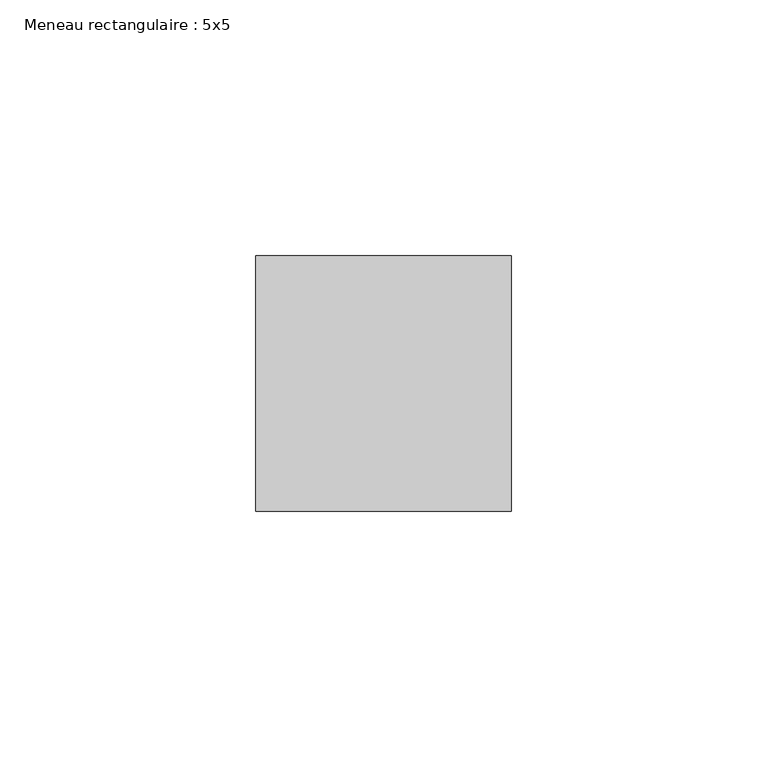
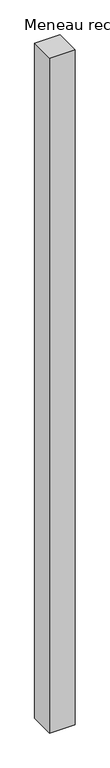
"""IFC4 building model written with IfcOpenShell, lengths in millimetres: member geometry, Meneau rectangulaire : 5x5."""

import ifcopenshell
import ifcopenshell.guid

model = None  # the IFC model being written
_history = None  # IfcOwnerHistory: only IFC2X3 demands one
_inside = {}  # id of a spatial element -> (the spatial element, [elements in it])
_under = {}  # id of a project, library or spatial element -> (it, [spatial elements below it])
_declared = {}  # id of a project -> (the project, [libraries it declares])
_typed = {}  # id of a type object -> (the type object, [elements of that type])
_made_of = {}  # id of a material, layer set ... -> (it, [elements and type objects made of it])


def new_model(schema):
    """Start an empty IFC model of exactly this schema.

    Asked for "IFC4X3", IfcOpenShell would pick the latest addendum, in which some entities
    have other attributes; the version numbers below select the first issue.
    IFC2X3 requires an IfcOwnerHistory on every rooted entity: one is made here for all.
    """
    global model, _history
    if schema == "IFC4X3":
        model = ifcopenshell.file(schema_version=(4, 3, 0, 0))
    else:
        model = ifcopenshell.file(schema=schema)
    _inside.clear()
    _under.clear()
    _declared.clear()
    _typed.clear()
    _made_of.clear()
    _history = None
    if model.schema == "IFC2X3":
        org = make("IfcOrganization", Name="unknown")
        user = make(
            "IfcPersonAndOrganization",
            ThePerson=make("IfcPerson", FamilyName="unknown"),
            TheOrganization=org,
        )
        app = make(
            "IfcApplication",
            ApplicationDeveloper=org,
            Version="unknown",
            ApplicationFullName="unknown",
            ApplicationIdentifier="unknown",
        )
        _history = make(
            "IfcOwnerHistory",
            OwningUser=user,
            OwningApplication=app,
            ChangeAction="ADDED",
            CreationDate=0,
        )
    return model


def make(cls, **values):
    """One entity of the class cls with the attributes given. An attribute that is None is left unset."""
    return model.create_entity(
        cls, **{name: value for name, value in values.items() if value is not None}
    )


def rooted(cls, **values):
    """An entity with a GlobalId (a new one), such as an element, a storey or a relation."""
    return make(cls, GlobalId=ifcopenshell.guid.new(), OwnerHistory=_history, **values)


def si_unit(unit_type, name, prefix=None):
    """IfcSIUnit, for example si_unit("LENGTHUNIT", "METRE", prefix="MILLI")."""
    return make("IfcSIUnit", UnitType=unit_type, Prefix=prefix, Name=name)


def assignment(units):
    """IfcUnitAssignment: the units of a project."""
    return None if units is None else make("IfcUnitAssignment", Units=units)


def point(xyz):
    """IfcCartesianPoint."""
    return None if xyz is None else make("IfcCartesianPoint", Coordinates=xyz)


def direction(xyz):
    """IfcDirection."""
    return None if xyz is None else make("IfcDirection", DirectionRatios=xyz)


def frame(location, z_axis=None, x_axis=None):
    """IfcAxis2Placement3D, a coordinate frame: its origin and axes. An axis left out is left unset."""
    return make(
        "IfcAxis2Placement3D",
        Location=point(location),
        Axis=direction(z_axis),
        RefDirection=direction(x_axis),
    )


def origin():
    """The frame at (0, 0, 0) with its axes left unset."""
    return frame((0.0, 0.0, 0.0))


def place(relative_to, where):
    """IfcLocalPlacement: puts the frame where relative to a parent placement (None: the world)."""
    return make(
        "IfcLocalPlacement", PlacementRelTo=relative_to, RelativePlacement=where
    )


def context(
    kind, dimensions, precision=None, world=None, true_north=None, identifier=None
):
    """IfcGeometricRepresentationContext, for example the 3D "Model" context."""
    return make(
        "IfcGeometricRepresentationContext",
        ContextIdentifier=identifier,
        ContextType=kind,
        CoordinateSpaceDimension=dimensions,
        Precision=precision,
        WorldCoordinateSystem=world,
        TrueNorth=true_north,
    )


def project(units=None, contexts=None):
    """IfcProject with its units and contexts."""
    return rooted(
        "IfcProject",
        Name="project",
        RepresentationContexts=contexts,
        UnitsInContext=assignment(units),
    )


def spatial(cls, under=None, at=None, **own):
    """A site, building, storey or space (cls), placed at a placement, below another one or the project."""
    s = rooted(cls, ObjectPlacement=at, **own)
    if under is not None:
        _under.setdefault(under.id(), (under, []))[1].append(s)
    return s


def polyline(points):
    """IfcPolyline through the points."""
    return make("IfcPolyline", Points=[point(p) for p in points])


def outline(outer, holes=None, kind="AREA"):
    """IfcArbitraryClosedProfileDef: a profile drawn as a closed curve; with holes, ...WithVoids."""
    if holes is None:
        return make("IfcArbitraryClosedProfileDef", ProfileType=kind, OuterCurve=outer)
    return make(
        "IfcArbitraryProfileDefWithVoids",
        ProfileType=kind,
        OuterCurve=outer,
        InnerCurves=holes,
    )


def extrude(swept, where, along, depth):
    """IfcExtrudedAreaSolid: the profile swept, set in the frame where, extruded along a direction by depth."""
    return make(
        "IfcExtrudedAreaSolid",
        SweptArea=swept,
        Position=where,
        ExtrudedDirection=direction(along),
        Depth=depth,
    )


def shape(context_of_items, identifier, shape_type, items):
    """IfcShapeRepresentation: the items that make up one representation, for example the "Body"."""
    return make(
        "IfcShapeRepresentation",
        ContextOfItems=context_of_items,
        RepresentationIdentifier=identifier,
        RepresentationType=shape_type,
        Items=items,
    )


def source(mapping_origin, context_of_items, identifier, shape_type, items):
    """IfcRepresentationMap: a shape defined once, which mapped items show again and again."""
    return make(
        "IfcRepresentationMap",
        MappingOrigin=mapping_origin,
        MappedRepresentation=shape(context_of_items, identifier, shape_type, items),
    )


def transform(
    local_origin,
    x_axis=None,
    y_axis=None,
    z_axis=None,
    scale=None,
    scale2=None,
    scale3=None,
    uniform=True,
):
    """IfcCartesianTransformationOperator3D, or its non-uniform kind. x_axis, y_axis, z_axis: its Axis1, 2, 3."""
    if uniform:
        return make(
            "IfcCartesianTransformationOperator3D",
            Axis1=direction(x_axis),
            Axis2=direction(y_axis),
            LocalOrigin=point(local_origin),
            Scale=scale,
            Axis3=direction(z_axis),
        )
    return make(
        "IfcCartesianTransformationOperator3DnonUniform",
        Axis1=direction(x_axis),
        Axis2=direction(y_axis),
        LocalOrigin=point(local_origin),
        Scale=scale,
        Axis3=direction(z_axis),
        Scale2=scale2,
        Scale3=scale3,
    )


def mapped(mapping_source, mapping_target):
    """IfcMappedItem: shows the shape of a source again, moved by a transform."""
    return make(
        "IfcMappedItem", MappingSource=mapping_source, MappingTarget=mapping_target
    )


def made_of(thing, what):
    """Note that an element or type object is made of a material, layer set ...; save() writes the relation."""
    if what is not None:
        _made_of.setdefault(what.id(), (what, []))[1].append(thing)
    return thing


def element(
    cls,
    number,
    at=None,
    inside=None,
    cuts=None,
    type_object=None,
    material=None,
    context=None,
    identifier="Body",
    shape_type=None,
    held_by="IfcProductDefinitionShape",
    body=None,
    shapes=None,
    **own,
):
    """One element of the class cls, such as IfcWall. Its Tag is "e" and its number.

    at: its placement. inside: the storey or other place that contains it. cuts: it is an
    opening in that element (IfcRelVoidsElement). A single representation is given by context,
    identifier, shape_type and body (its items); several are given by shapes. held_by: the class
    of the entity that holds the representations. save() writes the other relations.
    """
    e = rooted(cls, Tag="e%d" % number, ObjectPlacement=at, **own)
    if body is not None:
        shapes = [shape(context, identifier, shape_type, body)]
    if shapes is not None:
        e.Representation = make(held_by, Representations=shapes)
    if inside is not None:
        _inside.setdefault(inside.id(), (inside, []))[1].append(e)
    if cuts is not None:
        rooted(
            "IfcRelVoidsElement", RelatingBuildingElement=cuts, RelatedOpeningElement=e
        )
    if type_object is not None:
        _typed.setdefault(type_object.id(), (type_object, []))[1].append(e)
    return made_of(e, material)


def aggregate(whole, parts):
    """IfcRelAggregates: a whole, such as a stair, and the parts it consists of."""
    return rooted("IfcRelAggregates", RelatingObject=whole, RelatedObjects=parts)


def save(model, path):
    """Write the relations noted so far, then the file.

    IfcRelAggregates (storeys below a building ...), IfcRelContainedInSpatialStructure (elements
    in a storey), IfcRelDefinesByType, IfcRelAssociatesMaterial and IfcRelDeclares: one each for
    every whole, place, type object, material and project.
    """
    for whole, parts in _under.values():
        aggregate(whole, parts)
    for where, things in _inside.values():
        rooted(
            "IfcRelContainedInSpatialStructure",
            RelatedElements=things,
            RelatingStructure=where,
        )
    for kind, things in _typed.values():
        rooted("IfcRelDefinesByType", RelatedObjects=things, RelatingType=kind)
    for what, things in _made_of.values():
        rooted("IfcRelAssociatesMaterial", RelatedObjects=things, RelatingMaterial=what)
    for by, libraries in _declared.values():
        rooted("IfcRelDeclares", RelatingContext=by, RelatedDefinitions=libraries)
    model.write(path)


def meneau_rectangulaire_5x5_99be277d(model_context):
    return source(origin(), model_context, "Body", "SweptSolid", [
        extrude(outline(polyline([(0.0, 25.0), (0.0, -25.0), (-50.0, -25.0), (-50.0, 25.0), (0.0, 25.0)])), frame((0.0, 0.0, -1395.75), z_axis=(0.0, 0.0, 1.0), x_axis=(1.0, 0.0, 0.0)), (0.0, 0.0, 1.0), 1395.75),
    ])


if __name__ == "__main__":
    model = new_model("IFC4")
    model_context = context("Model", 3, world=origin())
    ifc_project = project(units=[si_unit("LENGTHUNIT", "METRE", prefix="MILLI")], contexts=[model_context])
    site = spatial("IfcSite", under=ifc_project)
    building = spatial("IfcBuilding", under=site)
    placement = place(None, origin())
    meneau_rectangulaire_5x5_shape = meneau_rectangulaire_5x5_99be277d(model_context)
    element("IfcMember", 1, ObjectType="Meneau rectangulaire : 5x5", at=placement, inside=building, context=model_context, shape_type="MappedRepresentation", body=[
        mapped(meneau_rectangulaire_5x5_shape, transform((0.0, 0.0, 0.0), x_axis=(1.0, 0.0, 0.0), y_axis=(0.0, 1.0, 0.0), z_axis=(0.0, 0.0, 1.0))),
    ])
    save(model, "model.ifc")
